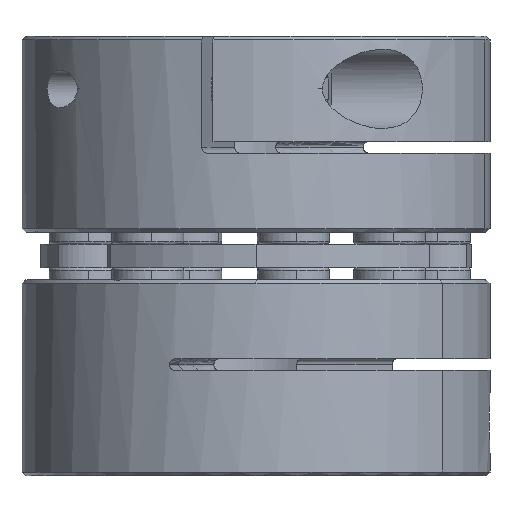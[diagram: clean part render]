
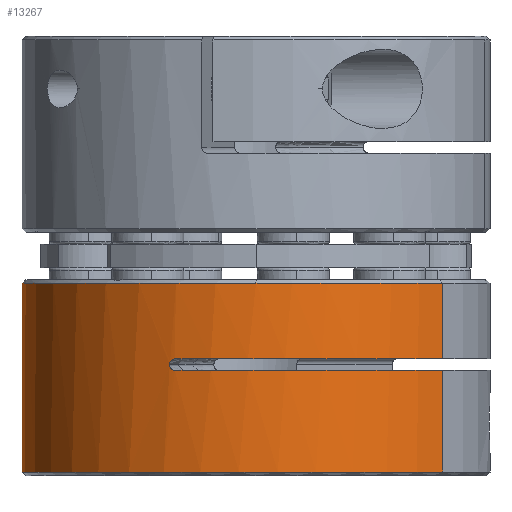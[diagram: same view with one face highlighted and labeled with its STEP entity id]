
A CAD part, left-side view. The second image highlights one B-rep face of the part: STEP entity #13267.
In plain terms, the highlighted cylindrical face has radius 31 mm (diameter 62 mm), a partial arc.
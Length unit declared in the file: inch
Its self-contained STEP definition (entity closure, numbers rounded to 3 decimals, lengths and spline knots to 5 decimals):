
#4172=CARTESIAN_POINT('',(0.,0.,1.27));
#4173=DIRECTION('',(0.,0.,-1.));
#4174=DIRECTION('',(-0.602,-0.799,0.));
#4175=AXIS2_PLACEMENT_3D('',#4172,#4173,#4174);
#4371=DIRECTION('',(0.,0.,-1.));
#4372=VECTOR('',#4371,0.98362);
#4373=CARTESIAN_POINT('',(0.7345,0.97471,
1.66362));
#4374=LINE('',#4373,#4372);
#4378=DIRECTION('',(0.,0.,1.));
#4379=VECTOR('',#4378,0.39362);
#4380=CARTESIAN_POINT('',(-0.7345,-0.97471,1.27));
#4381=LINE('',#4380,#4379);
#4385=CARTESIAN_POINT('',(-1.13396,0.45132,1.241));
#4386=CARTESIAN_POINT('',(-1.13396,0.45132,
1.24409));
#4387=CARTESIAN_POINT('',(-1.13433,0.45038,
1.24995));
#4388=CARTESIAN_POINT('',(-1.13589,0.44645,
1.25818));
#4389=CARTESIAN_POINT('',(-1.13832,0.44024,
1.26475));
#4390=CARTESIAN_POINT('',(-1.14137,0.43226,
1.269));
#4391=CARTESIAN_POINT('',(-1.14355,0.42645,
1.27));
#4392=CARTESIAN_POINT('',(-1.14469,0.42336,1.27));
#4397=CARTESIAN_POINT('',(-1.14469,0.42336,1.21));
#4398=CARTESIAN_POINT('',(-1.14355,0.42646,1.21));
#4399=CARTESIAN_POINT('',(-1.14137,0.43228,
1.21104));
#4400=CARTESIAN_POINT('',(-1.13832,0.44022,
1.21526));
#4401=CARTESIAN_POINT('',(-1.13589,0.44646,
1.2218));
#4402=CARTESIAN_POINT('',(-1.13432,0.45043,
1.23004));
#4403=CARTESIAN_POINT('',(-1.13396,0.45132,
1.23591));
#4404=CARTESIAN_POINT('',(-1.13396,0.45132,1.239));
#4416=CARTESIAN_POINT('',(0.,0.,1.66362));
#4417=DIRECTION('',(0.,0.,1.));
#4418=DIRECTION('',(0.,1.,0.));
#4419=AXIS2_PLACEMENT_3D('',#4416,#4417,#4418);
#4424=CARTESIAN_POINT('',(0.,0.,1.66362));
#4425=DIRECTION('',(0.,0.,1.));
#4426=DIRECTION('',(0.602,0.799,0.));
#4427=AXIS2_PLACEMENT_3D('',#4424,#4425,#4426);
#4446=CARTESIAN_POINT('',(0.,0.,1.66362));
#4447=DIRECTION('',(0.,0.,1.));
#4448=DIRECTION('',(-1.,0.,0.));
#4449=AXIS2_PLACEMENT_3D('',#4446,#4447,#4448);
#4864=CARTESIAN_POINT('',(0.,0.,1.21));
#4865=DIRECTION('',(0.,0.,1.));
#4866=DIRECTION('',(-0.938,0.347,0.));
#4867=AXIS2_PLACEMENT_3D('',#4864,#4865,#4866);
#5090=CARTESIAN_POINT('',(0.,0.,0.68));
#5091=DIRECTION('',(0.,0.,-1.));
#5092=DIRECTION('',(0.,1.,0.));
#5093=AXIS2_PLACEMENT_3D('',#5090,#5091,#5092);
#5105=CARTESIAN_POINT('',(0.,0.,0.68));
#5106=DIRECTION('',(0.,0.,-1.));
#5107=DIRECTION('',(-0.602,-0.799,0.));
#5108=AXIS2_PLACEMENT_3D('',#5105,#5106,#5107);
#5121=DIRECTION('',(0.,0.,-1.));
#5122=VECTOR('',#5121,0.53);
#5123=CARTESIAN_POINT('',(-0.7345,-0.97471,1.21));
#5124=LINE('',#5123,#5122);
#5731=DIRECTION('',(0.,0.,-1.));
#5732=VECTOR('',#5731,0.002);
#5733=CARTESIAN_POINT('',(-1.13396,0.45132,1.241));
#5734=LINE('',#5733,#5732);
#8763=CARTESIAN_POINT('',(-1.13396,0.45132,1.241));
#8764=CARTESIAN_POINT('',(-1.13396,0.45132,1.239));
#8765=VERTEX_POINT('',#8763);
#8766=VERTEX_POINT('',#8764);
#8809=CARTESIAN_POINT('',(-0.7345,-0.97471,1.27));
#8810=VERTEX_POINT('',#8809);
#8917=CARTESIAN_POINT('',(-0.7345,-0.97471,
1.66362));
#8918=VERTEX_POINT('',#8917);
#8947=CARTESIAN_POINT('',(-1.22047,0.,1.66362));
#8948=VERTEX_POINT('',#8947);
#9107=VERTEX_POINT('',#4397);
#9383=CARTESIAN_POINT('',(-1.14469,0.42336,1.27));
#9384=VERTEX_POINT('',#9383);
#9513=CARTESIAN_POINT('',(-0.7345,-0.97471,1.21));
#9514=VERTEX_POINT('',#9513);
#9517=CARTESIAN_POINT('',(0.7345,0.97471,
1.66362));
#9518=CARTESIAN_POINT('',(0.,1.22047,1.66362));
#9519=VERTEX_POINT('',#9517);
#9520=VERTEX_POINT('',#9518);
#9671=CARTESIAN_POINT('',(0.,1.22047,0.68));
#9672=VERTEX_POINT('',#9671);
#9678=CARTESIAN_POINT('',(-0.7345,-0.97471,0.68));
#9680=VERTEX_POINT('',#9678);
#9869=CARTESIAN_POINT('',(0.7345,0.97471,0.68));
#9870=VERTEX_POINT('',#9869);
#13237=CARTESIAN_POINT('',(0.,0.,0.66));
#13238=DIRECTION('',(0.,0.,1.));
#13239=DIRECTION('',(0.,-1.,0.));
#13240=AXIS2_PLACEMENT_3D('',#13237,#13238,#13239);
#13241=CYLINDRICAL_SURFACE('',#13240,1.22047);
#13242=ORIENTED_EDGE('',*,*,#13202,.F.);
#13244=ORIENTED_EDGE('',*,*,#13243,.T.);
#13246=ORIENTED_EDGE('',*,*,#13245,.T.);
#13248=ORIENTED_EDGE('',*,*,#13247,.T.);
#13249=ORIENTED_EDGE('',*,*,#13229,.F.);
#13250=ORIENTED_EDGE('',*,*,#13037,.T.);
#13252=ORIENTED_EDGE('',*,*,#13251,.F.);
#13254=ORIENTED_EDGE('',*,*,#13253,.T.);
#13256=ORIENTED_EDGE('',*,*,#13255,.F.);
#13258=ORIENTED_EDGE('',*,*,#13257,.T.);
#13260=ORIENTED_EDGE('',*,*,#13259,.T.);
#13262=ORIENTED_EDGE('',*,*,#13261,.T.);
#13264=ORIENTED_EDGE('',*,*,#13263,.T.);
#13265=EDGE_LOOP('',(#13242,#13244,#13246,#13248,#13249,#13250,#13252,#13254,
#13256,#13258,#13260,#13262,#13264));
#13266=FACE_OUTER_BOUND('',#13265,.F.);
#4176=CIRCLE('',#4175,1.22047);
#4393=B_SPLINE_CURVE_WITH_KNOTS('',3,(#4385,#4386,#4387,#4388,#4389,#4390,#4391,
#4392),.UNSPECIFIED.,.F.,.F.,(4,1,1,1,1,4),(0.,0.2,0.4,0.6,0.8,1.),
.UNSPECIFIED.);
#4405=B_SPLINE_CURVE_WITH_KNOTS('',3,(#4397,#4398,#4399,#4400,#4401,#4402,#4403,
#4404),.UNSPECIFIED.,.F.,.F.,(4,1,1,1,1,4),(0.,0.2,0.4,0.6,0.8,1.),
.UNSPECIFIED.);
#4420=CIRCLE('',#4419,1.22047);
#4428=CIRCLE('',#4427,1.22047);
#4450=CIRCLE('',#4449,1.22047);
#4868=CIRCLE('',#4867,1.22047);
#5094=CIRCLE('',#5093,1.22047);
#5109=CIRCLE('',#5108,1.22047);
#13037=EDGE_CURVE('',#8810,#9384,#4176,.T.);
#13202=EDGE_CURVE('',#9519,#9870,#4374,.T.);
#13229=EDGE_CURVE('',#8810,#8918,#4381,.T.);
#13243=EDGE_CURVE('',#9519,#9520,#4428,.T.);
#13245=EDGE_CURVE('',#9520,#8948,#4420,.T.);
#13247=EDGE_CURVE('',#8948,#8918,#4450,.T.);
#13251=EDGE_CURVE('',#8765,#9384,#4393,.T.);
#13253=EDGE_CURVE('',#8765,#8766,#5734,.T.);
#13255=EDGE_CURVE('',#9107,#8766,#4405,.T.);
#13257=EDGE_CURVE('',#9107,#9514,#4868,.T.);
#13259=EDGE_CURVE('',#9514,#9680,#5124,.T.);
#13261=EDGE_CURVE('',#9680,#9672,#5109,.T.);
#13263=EDGE_CURVE('',#9672,#9870,#5094,.T.);
#13267=ADVANCED_FACE('',(#13266),#13241,.T.);
